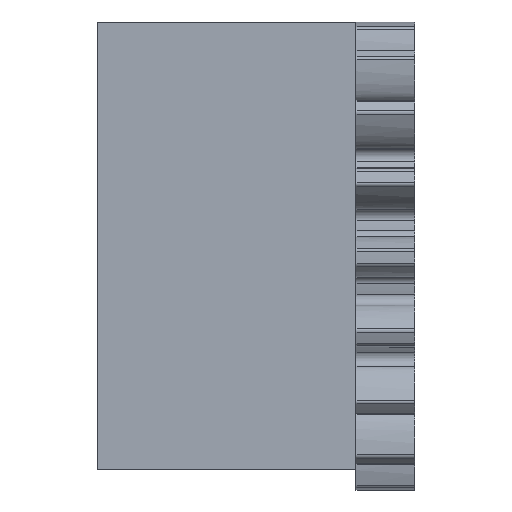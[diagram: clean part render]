
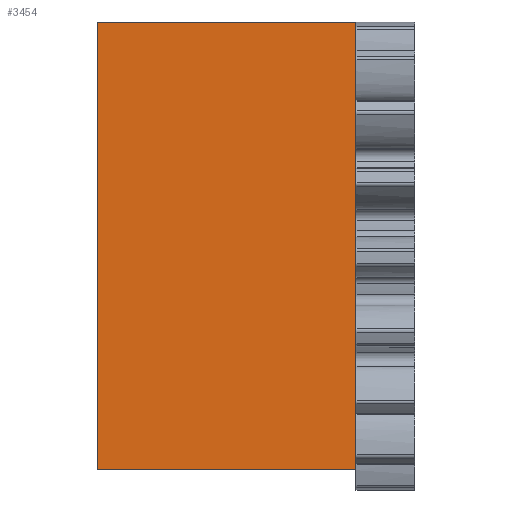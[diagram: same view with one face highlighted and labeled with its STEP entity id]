
A CAD part, front view. The second image highlights one B-rep face of the part: STEP entity #3454.
In plain terms, the highlighted planar face has unit normal (0, -1, 0).
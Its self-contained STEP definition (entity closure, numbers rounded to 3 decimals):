
#45 = CARTESIAN_POINT ( 'NONE',  ( -27., 29., 0. ) ) ;
#58 = ORIENTED_EDGE ( 'NONE', *, *, #404, .F. ) ;
#69 = DIRECTION ( 'NONE',  ( 0., 0., -1. ) ) ;
#132 = VECTOR ( 'NONE', #1040, 1000. ) ;
#170 = VECTOR ( 'NONE', #69, 1000. ) ;
#404 = EDGE_CURVE ( 'NONE', #670, #3409, #4819, .T. ) ;
#425 = CARTESIAN_POINT ( 'NONE',  ( -27., 29., -18. ) ) ;
#670 = VERTEX_POINT ( 'NONE', #1637 ) ;
#1040 = DIRECTION ( 'NONE',  ( 0., 0., -1. ) ) ;
#1520 = LINE ( 'NONE', #2045, #1985 ) ;
#1637 = CARTESIAN_POINT ( 'NONE',  ( -5., 29., 20. ) ) ;
#1985 = VECTOR ( 'NONE', #5337, 1000. ) ;
#2045 = CARTESIAN_POINT ( 'NONE',  ( -27., 29., 20. ) ) ;
#2123 = EDGE_CURVE ( 'NONE', #5287, #670, #1520, .T. ) ;
#2289 = ORIENTED_EDGE ( 'NONE', *, *, #3689, .T. ) ;
#2649 = CARTESIAN_POINT ( 'NONE',  ( -27., 29., 0. ) ) ;
#2758 = CARTESIAN_POINT ( 'NONE',  ( -27., 29., 20. ) ) ;
#3286 = ORIENTED_EDGE ( 'NONE', *, *, #3424, .T. ) ;
#3358 = VECTOR ( 'NONE', #5032, 1000. ) ;
#3409 = VERTEX_POINT ( 'NONE', #3855 ) ;
#3424 = EDGE_CURVE ( 'NONE', #5287, #4447, #4997, .T. ) ;
#3439 = AXIS2_PLACEMENT_3D ( 'NONE', #2649, #4016, #4350 ) ;
#3454 = ADVANCED_FACE ( 'NONE', ( #3595 ), #4426, .T. ) ;
#3595 = FACE_OUTER_BOUND ( 'NONE', #4770, .T. ) ;
#3689 = EDGE_CURVE ( 'NONE', #4447, #3409, #5086, .T. ) ;
#3855 = CARTESIAN_POINT ( 'NONE',  ( -5., 29., -18. ) ) ;
#3938 = CARTESIAN_POINT ( 'NONE',  ( -27., 29., -18. ) ) ;
#3994 = CARTESIAN_POINT ( 'NONE',  ( -5., 29., 0. ) ) ;
#4016 = DIRECTION ( 'NONE',  ( 0., -1., 0. ) ) ;
#4350 = DIRECTION ( 'NONE',  ( 0., 0., -1. ) ) ;
#4426 = PLANE ( 'NONE',  #3439 ) ;
#4447 = VERTEX_POINT ( 'NONE', #3938 ) ;
#4770 = EDGE_LOOP ( 'NONE', ( #58, #4981, #3286, #2289 ) ) ;
#4819 = LINE ( 'NONE', #3994, #132 ) ;
#4981 = ORIENTED_EDGE ( 'NONE', *, *, #2123, .F. ) ;
#4997 = LINE ( 'NONE', #45, #170 ) ;
#5032 = DIRECTION ( 'NONE',  ( 1., 0., 0. ) ) ;
#5086 = LINE ( 'NONE', #425, #3358 ) ;
#5287 = VERTEX_POINT ( 'NONE', #2758 ) ;
#5337 = DIRECTION ( 'NONE',  ( 1., 0., 0. ) ) ;
